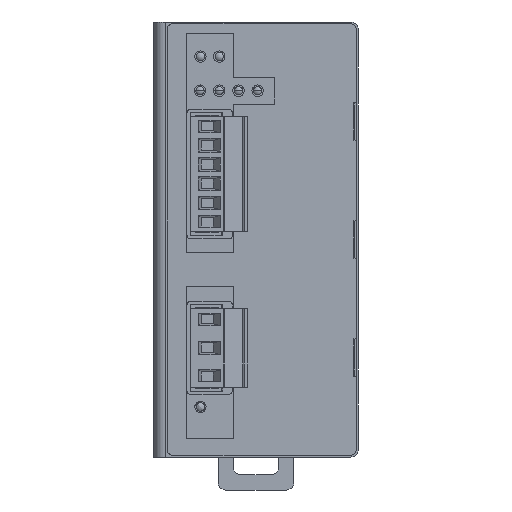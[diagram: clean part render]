
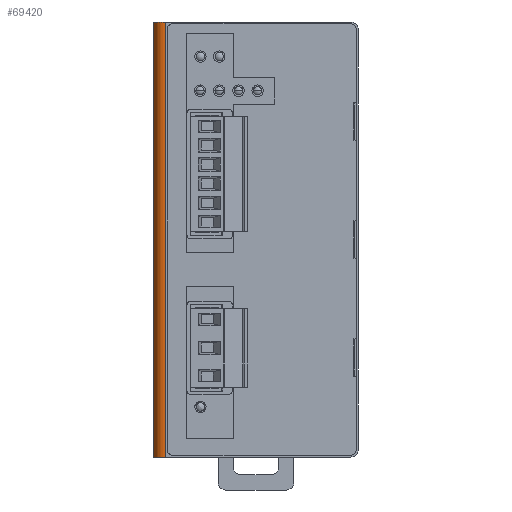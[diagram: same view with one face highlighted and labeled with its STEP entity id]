
A CAD part, left-side view. The second image highlights one B-rep face of the part: STEP entity #69420.
In plain terms, the highlighted cylindrical face has radius 3 mm (diameter 6 mm), a partial arc.
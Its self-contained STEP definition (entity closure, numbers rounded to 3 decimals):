
#240 = DIRECTION ( 'NONE',  ( 0., 1., 0. ) ) ;
#11759 = EDGE_CURVE ( 'NONE', #51175, #57219, #44879, .T. ) ;
#12416 = AXIS2_PLACEMENT_3D ( 'NONE', #91181, #91034, #90944 ) ;
#14844 = LINE ( 'NONE', #36434, #37663 ) ;
#15659 = CYLINDRICAL_SURFACE ( 'NONE', #56088, 3. ) ;
#15836 = VERTEX_POINT ( 'NONE', #70047 ) ;
#29506 = DIRECTION ( 'NONE',  ( 0., 1., 0. ) ) ;
#33750 = EDGE_LOOP ( 'NONE', ( #47616, #51705, #41897, #61955 ) ) ;
#36434 = CARTESIAN_POINT ( 'NONE',  ( -52., 27., 57.5 ) ) ;
#37663 = VECTOR ( 'NONE', #103747, 1000. ) ;
#41897 = ORIENTED_EDGE ( 'NONE', *, *, #67211, .T. ) ;
#44879 = CIRCLE ( 'NONE', #12416, 3. ) ;
#47616 = ORIENTED_EDGE ( 'NONE', *, *, #11759, .T. ) ;
#51175 = VERTEX_POINT ( 'NONE', #92460 ) ;
#51417 = DIRECTION ( 'NONE',  ( 0., 0., -1. ) ) ;
#51705 = ORIENTED_EDGE ( 'NONE', *, *, #89653, .T. ) ;
#52261 = AXIS2_PLACEMENT_3D ( 'NONE', #101677, #51417, #240 ) ;
#54282 = DIRECTION ( 'NONE',  ( 0., 0., -1. ) ) ;
#56088 = AXIS2_PLACEMENT_3D ( 'NONE', #79161, #54282, #29506 ) ;
#57219 = VERTEX_POINT ( 'NONE', #67719 ) ;
#60190 = EDGE_CURVE ( 'NONE', #94355, #51175, #14844, .T. ) ;
#61955 = ORIENTED_EDGE ( 'NONE', *, *, #60190, .T. ) ;
#67211 = EDGE_CURVE ( 'NONE', #15836, #94355, #84149, .T. ) ;
#67719 = CARTESIAN_POINT ( 'NONE',  ( -55., 24., -57.5 ) ) ;
#69420 = ADVANCED_FACE ( 'NONE', ( #90986 ), #15659, .T. ) ;
#70047 = CARTESIAN_POINT ( 'NONE',  ( -55., 24., 57.5 ) ) ;
#78745 = CARTESIAN_POINT ( 'NONE',  ( -52., 27., 57.5 ) ) ;
#79161 = CARTESIAN_POINT ( 'NONE',  ( -52., 24., 57.5 ) ) ;
#84149 = CIRCLE ( 'NONE', #52261, 3. ) ;
#89653 = EDGE_CURVE ( 'NONE', #57219, #15836, #96549, .T. ) ;
#90944 = DIRECTION ( 'NONE',  ( 0., 1., 0. ) ) ;
#90986 = FACE_OUTER_BOUND ( 'NONE', #33750, .T. ) ;
#91034 = DIRECTION ( 'NONE',  ( 0., 0., 1. ) ) ;
#91181 = CARTESIAN_POINT ( 'NONE',  ( -52., 24., -57.5 ) ) ;
#92460 = CARTESIAN_POINT ( 'NONE',  ( -52., 27., -57.5 ) ) ;
#93929 = VECTOR ( 'NONE', #104389, 1000. ) ;
#94355 = VERTEX_POINT ( 'NONE', #78745 ) ;
#95864 = CARTESIAN_POINT ( 'NONE',  ( -55., 24., 57.5 ) ) ;
#96549 = LINE ( 'NONE', #95864, #93929 ) ;
#101677 = CARTESIAN_POINT ( 'NONE',  ( -52., 24., 57.5 ) ) ;
#103747 = DIRECTION ( 'NONE',  ( 0., 0., -1. ) ) ;
#104389 = DIRECTION ( 'NONE',  ( 0., 0., 1. ) ) ;
